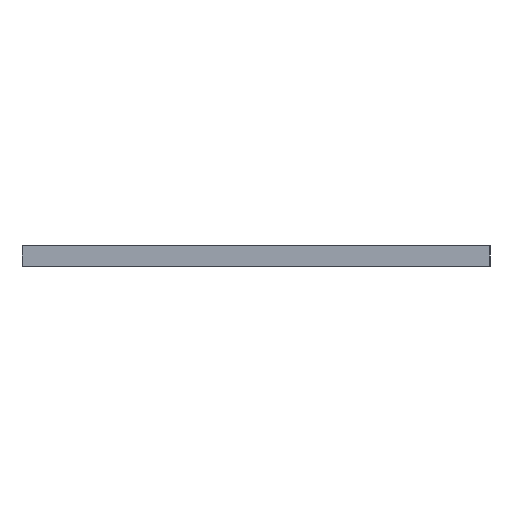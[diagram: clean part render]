
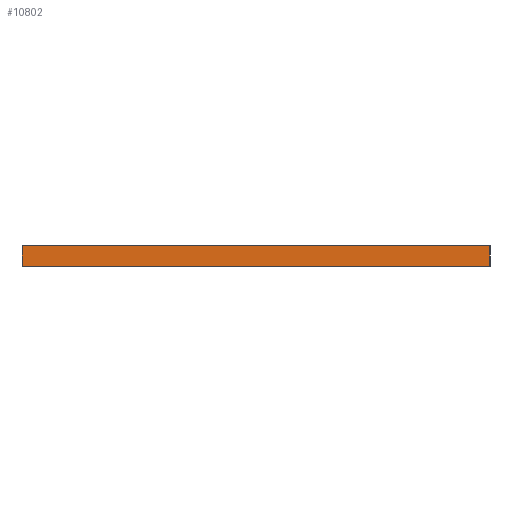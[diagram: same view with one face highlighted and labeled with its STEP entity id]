
A CAD part, left-side view. The second image highlights one B-rep face of the part: STEP entity #10802.
In plain terms, the highlighted planar face has unit normal (-1, 0, 0).
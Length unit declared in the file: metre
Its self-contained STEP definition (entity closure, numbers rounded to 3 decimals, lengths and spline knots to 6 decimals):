
#239=PLANE('',#11885);
#577=LINE('',#16048,#1595);
#787=LINE('',#16747,#1805);
#1150=LINE('',#17932,#2168);
#1152=LINE('',#17935,#2170);
#1595=VECTOR('',#12667,1.);
#1805=VECTOR('',#13341,1.);
#2168=VECTOR('',#14682,1.);
#2170=VECTOR('',#14686,1.);
#4681=ORIENTED_EDGE('',*,*,#6709,.T.);
#4682=ORIENTED_EDGE('',*,*,#5815,.T.);
#4683=ORIENTED_EDGE('',*,*,#6707,.F.);
#4684=ORIENTED_EDGE('',*,*,#6151,.F.);
#5815=EDGE_CURVE('',#7316,#7318,#577,.T.);
#6151=EDGE_CURVE('',#7576,#7577,#787,.T.);
#6707=EDGE_CURVE('',#7577,#7318,#1150,.T.);
#6709=EDGE_CURVE('',#7576,#7316,#1152,.T.);
#7316=VERTEX_POINT('',#16043);
#7318=VERTEX_POINT('',#16047);
#7576=VERTEX_POINT('',#16748);
#7577=VERTEX_POINT('',#16749);
#9168=EDGE_LOOP('',(#4681,#4682,#4683,#4684));
#9963=FACE_BOUND('',#9168,.T.);
#10802=ADVANCED_FACE('',(#9963),#239,.T.);
#11885=AXIS2_PLACEMENT_3D('',#17934,#14684,#14685);
#12667=DIRECTION('',(0.,1.,0.));
#13341=DIRECTION('',(0.,1.,0.));
#14682=DIRECTION('',(0.,0.,1.));
#14684=DIRECTION('',(-1.,0.,0.));
#14685=DIRECTION('',(0.,1.,0.));
#14686=DIRECTION('',(0.,0.,1.));
#16043=CARTESIAN_POINT('',(-0.00071,-0.00411,-0.00079));
#16047=CARTESIAN_POINT('',(-0.00071,0.03094,-0.00079));
#16048=CARTESIAN_POINT('',(-0.00071,-0.00411,-0.00079));
#16747=CARTESIAN_POINT('',(-0.00071,-0.00411,-0.0023));
#16748=CARTESIAN_POINT('',(-0.00071,-0.00411,-0.0023));
#16749=CARTESIAN_POINT('',(-0.00071,0.03094,-0.0023));
#17932=CARTESIAN_POINT('',(-0.00071,0.03094,-0.0023));
#17934=CARTESIAN_POINT('',(-0.00071,-0.00411,-0.0023));
#17935=CARTESIAN_POINT('',(-0.00071,-0.00411,-0.0023));
